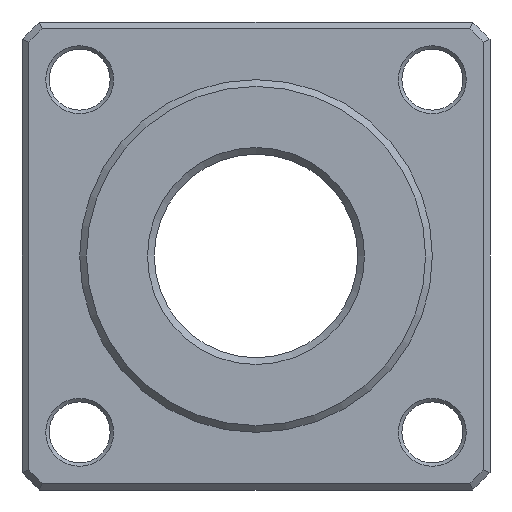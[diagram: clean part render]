
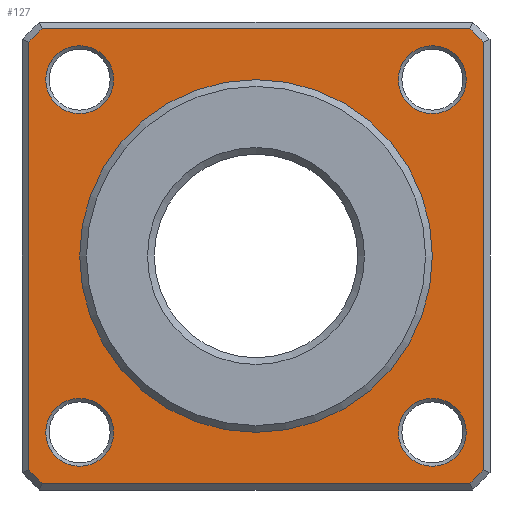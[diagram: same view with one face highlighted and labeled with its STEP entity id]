
A CAD part, left-side view. The second image highlights one B-rep face of the part: STEP entity #127.
In plain terms, the highlighted planar face has unit normal (-1, 0, 0).
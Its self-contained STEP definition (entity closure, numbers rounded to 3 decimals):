
#127=ADVANCED_FACE('',(#199,#200,#201,#202,#203,#204),#205,.F.);
#199=FACE_BOUND('',#363,.T.);
#200=FACE_BOUND('',#364,.T.);
#201=FACE_BOUND('',#365,.T.);
#202=FACE_BOUND('',#366,.T.);
#203=FACE_BOUND('',#367,.T.);
#204=FACE_OUTER_BOUND('',#368,.T.);
#205=PLANE('',#369);
#363=EDGE_LOOP('',(#535));
#364=EDGE_LOOP('',(#536));
#365=EDGE_LOOP('',(#537));
#366=EDGE_LOOP('',(#538));
#367=EDGE_LOOP('',(#539));
#368=EDGE_LOOP('',(#540,#541,#542,#543,#544,#545,#546,#547));
#369=AXIS2_PLACEMENT_3D('',#548,#549,#550);
#535=ORIENTED_EDGE('',*,*,#924,.T.);
#536=ORIENTED_EDGE('',*,*,#925,.T.);
#537=ORIENTED_EDGE('',*,*,#926,.T.);
#538=ORIENTED_EDGE('',*,*,#927,.T.);
#539=ORIENTED_EDGE('',*,*,#923,.F.);
#540=ORIENTED_EDGE('',*,*,#928,.T.);
#541=ORIENTED_EDGE('',*,*,#929,.T.);
#542=ORIENTED_EDGE('',*,*,#930,.T.);
#543=ORIENTED_EDGE('',*,*,#931,.T.);
#544=ORIENTED_EDGE('',*,*,#932,.T.);
#545=ORIENTED_EDGE('',*,*,#933,.T.);
#546=ORIENTED_EDGE('',*,*,#934,.T.);
#547=ORIENTED_EDGE('',*,*,#935,.T.);
#548=CARTESIAN_POINT('',(0.,47.0,0.0));
#549=DIRECTION('',(1.0,0.0,0.0));
#550=DIRECTION('',(0.0,0.0,-1.0));
#923=EDGE_CURVE('',#1038,#1038,#1039,.T.);
#924=EDGE_CURVE('',#1040,#1040,#1041,.T.);
#925=EDGE_CURVE('',#1042,#1042,#1043,.T.);
#926=EDGE_CURVE('',#1044,#1044,#1045,.T.);
#927=EDGE_CURVE('',#1046,#1046,#1047,.T.);
#928=EDGE_CURVE('',#1048,#1049,#1050,.F.);
#929=EDGE_CURVE('',#1049,#1051,#1052,.T.);
#930=EDGE_CURVE('',#1051,#1053,#1054,.F.);
#931=EDGE_CURVE('',#1053,#1055,#1056,.T.);
#932=EDGE_CURVE('',#1055,#1057,#1058,.F.);
#933=EDGE_CURVE('',#1057,#1059,#1060,.T.);
#934=EDGE_CURVE('',#1059,#1061,#1062,.F.);
#935=EDGE_CURVE('',#1061,#1048,#1063,.T.);
#1038=VERTEX_POINT('',#1348);
#1039=CIRCLE('',#1349,26.0);
#1040=VERTEX_POINT('',#1350);
#1041=CIRCLE('',#1351,5.0);
#1042=VERTEX_POINT('',#1352);
#1043=CIRCLE('',#1353,5.0);
#1044=VERTEX_POINT('',#1354);
#1045=CIRCLE('',#1355,5.0);
#1046=VERTEX_POINT('',#1356);
#1047=CIRCLE('',#1357,5.0);
#1048=VERTEX_POINT('',#1358);
#1049=VERTEX_POINT('',#1359);
#1050=CIRCLE('',#1360,46.0);
#1051=VERTEX_POINT('',#1361);
#1052=LINE('',#1362,#1363);
#1053=VERTEX_POINT('',#1364);
#1054=CIRCLE('',#1365,46.0);
#1055=VERTEX_POINT('',#1366);
#1056=LINE('',#1367,#1368);
#1057=VERTEX_POINT('',#1369);
#1058=CIRCLE('',#1370,46.0);
#1059=VERTEX_POINT('',#1371);
#1060=LINE('',#1372,#1373);
#1061=VERTEX_POINT('',#1374);
#1062=CIRCLE('',#1375,46.0);
#1063=LINE('',#1376,#1377);
#1348=CARTESIAN_POINT('',(0.0,0.0,26.0));
#1349=AXIS2_PLACEMENT_3D('',#1625,#1626,#1627);
#1350=CARTESIAN_POINT('',(0.,-26.0,-31.0));
#1351=AXIS2_PLACEMENT_3D('',#1628,#1629,#1630);
#1352=CARTESIAN_POINT('',(0.,26.0,-31.0));
#1353=AXIS2_PLACEMENT_3D('',#1631,#1632,#1633);
#1354=CARTESIAN_POINT('',(0.,26.0,21.0));
#1355=AXIS2_PLACEMENT_3D('',#1634,#1635,#1636);
#1356=CARTESIAN_POINT('',(0.,-26.0,21.0));
#1357=AXIS2_PLACEMENT_3D('',#1637,#1638,#1639);
#1358=CARTESIAN_POINT('',(0.,-33.5,31.524));
#1359=CARTESIAN_POINT('',(0.,-31.524,33.5));
#1360=AXIS2_PLACEMENT_3D('',#1640,#1641,#1642);
#1361=CARTESIAN_POINT('',(0.,31.524,33.5));
#1362=CARTESIAN_POINT('',(0.,30.426,33.5));
#1363=VECTOR('',#1643,1.0);
#1364=CARTESIAN_POINT('',(0.,33.5,31.524));
#1365=AXIS2_PLACEMENT_3D('',#1644,#1645,#1646);
#1366=CARTESIAN_POINT('',(0.,33.5,-31.524));
#1367=CARTESIAN_POINT('',(0.,33.5,-30.426));
#1368=VECTOR('',#1647,1.0);
#1369=CARTESIAN_POINT('',(0.,31.524,-33.5));
#1370=AXIS2_PLACEMENT_3D('',#1648,#1649,#1650);
#1371=CARTESIAN_POINT('',(0.,-31.524,-33.5));
#1372=CARTESIAN_POINT('',(0.,-30.426,-33.5));
#1373=VECTOR('',#1651,1.0);
#1374=CARTESIAN_POINT('',(0.,-33.5,-31.524));
#1375=AXIS2_PLACEMENT_3D('',#1652,#1653,#1654);
#1376=CARTESIAN_POINT('',(0.,-33.5,30.426));
#1377=VECTOR('',#1655,1.0);
#1625=CARTESIAN_POINT('',(0.0,0.0,0.0));
#1626=DIRECTION('',(-1.0,0.0,0.0));
#1627=DIRECTION('',(0.0,0.0,1.0));
#1628=CARTESIAN_POINT('',(0.,-26.0,-26.0));
#1629=DIRECTION('',(1.0,0.0,0.0));
#1630=DIRECTION('',(0.0,0.0,-1.0));
#1631=CARTESIAN_POINT('',(0.,26.0,-26.0));
#1632=DIRECTION('',(1.0,0.0,0.0));
#1633=DIRECTION('',(0.0,0.0,-1.0));
#1634=CARTESIAN_POINT('',(0.,26.0,26.0));
#1635=DIRECTION('',(1.0,0.0,0.0));
#1636=DIRECTION('',(0.0,0.0,-1.0));
#1637=CARTESIAN_POINT('',(0.,-26.0,26.0));
#1638=DIRECTION('',(1.0,0.0,0.0));
#1639=DIRECTION('',(0.0,0.0,-1.0));
#1640=CARTESIAN_POINT('',(0.,0.0,0.0));
#1641=DIRECTION('',(1.0,0.0,0.0));
#1642=DIRECTION('',(0.0,0.0,-1.0));
#1643=DIRECTION('',(0.0,1.0,0.0));
#1644=CARTESIAN_POINT('',(0.,0.0,0.0));
#1645=DIRECTION('',(1.0,0.0,0.0));
#1646=DIRECTION('',(0.0,0.0,-1.0));
#1647=DIRECTION('',(0.0,0.0,-1.0));
#1648=CARTESIAN_POINT('',(0.,0.0,0.0));
#1649=DIRECTION('',(1.0,0.0,0.0));
#1650=DIRECTION('',(0.0,0.0,-1.0));
#1651=DIRECTION('',(0.0,-1.0,0.0));
#1652=CARTESIAN_POINT('',(0.,0.0,0.0));
#1653=DIRECTION('',(1.0,0.0,0.0));
#1654=DIRECTION('',(0.0,0.0,-1.0));
#1655=DIRECTION('',(0.0,0.0,1.0));
